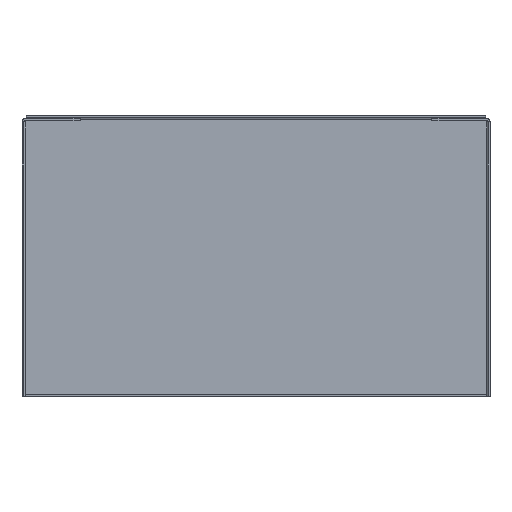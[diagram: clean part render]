
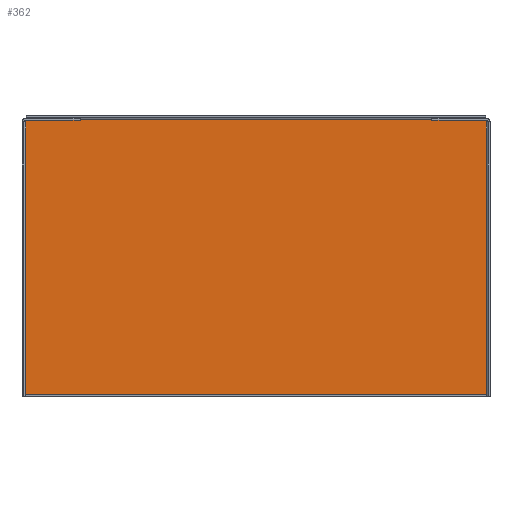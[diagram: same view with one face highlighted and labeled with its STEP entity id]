
A CAD part, front view. The second image highlights one B-rep face of the part: STEP entity #362.
In plain terms, the highlighted planar face has unit normal (0, -1, 0).
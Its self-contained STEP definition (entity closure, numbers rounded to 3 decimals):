
#46 = LINE ( 'NONE', #1877, #210 ) ;
#51 = DIRECTION ( 'NONE',  ( -1., 0., 0. ) ) ;
#62 = CARTESIAN_POINT ( 'NONE',  ( 0., 49., 0. ) ) ;
#72 = CARTESIAN_POINT ( 'NONE',  ( -123., 49., -75. ) ) ;
#146 = ORIENTED_EDGE ( 'NONE', *, *, #766, .T. ) ;
#151 = EDGE_CURVE ( 'NONE', #1208, #1920, #1371, .T. ) ;
#200 = VECTOR ( 'NONE', #1946, 1000. ) ;
#210 = VECTOR ( 'NONE', #650, 1000. ) ;
#259 = CARTESIAN_POINT ( 'NONE',  ( 122.75, 49., 72.75 ) ) ;
#261 = EDGE_CURVE ( 'NONE', #1221, #1624, #1846, .T. ) ;
#279 = DIRECTION ( 'NONE',  ( 0., 0., -1. ) ) ;
#299 = VERTEX_POINT ( 'NONE', #1095 ) ;
#303 = VECTOR ( 'NONE', #279, 1000. ) ;
#313 = EDGE_CURVE ( 'NONE', #1343, #389, #46, .T. ) ;
#320 = ORIENTED_EDGE ( 'NONE', *, *, #1840, .T. ) ;
#329 = ORIENTED_EDGE ( 'NONE', *, *, #313, .F. ) ;
#339 = EDGE_CURVE ( 'NONE', #1585, #299, #780, .T. ) ;
#340 = CARTESIAN_POINT ( 'NONE',  ( 122.75, 49., 73. ) ) ;
#353 = CARTESIAN_POINT ( 'NONE',  ( 0., 49., 72.75 ) ) ;
#362 = ADVANCED_FACE ( 'NONE', ( #1680 ), #810, .F. ) ;
#368 = CARTESIAN_POINT ( 'NONE',  ( 123., 49., 0. ) ) ;
#389 = VERTEX_POINT ( 'NONE', #340 ) ;
#397 = AXIS2_PLACEMENT_3D ( 'NONE', #62, #1566, #1255 ) ;
#430 = LINE ( 'NONE', #1026, #303 ) ;
#437 = DIRECTION ( 'NONE',  ( 0., 0., -1. ) ) ;
#460 = VECTOR ( 'NONE', #1842, 1000. ) ;
#489 = VECTOR ( 'NONE', #498, 1000. ) ;
#498 = DIRECTION ( 'NONE',  ( 0., 0., 1. ) ) ;
#521 = DIRECTION ( 'NONE',  ( -1., 0., 0. ) ) ;
#572 = LINE ( 'NONE', #1314, #200 ) ;
#650 = DIRECTION ( 'NONE',  ( 1., 0., 0. ) ) ;
#662 = ORIENTED_EDGE ( 'NONE', *, *, #1462, .F. ) ;
#681 = CARTESIAN_POINT ( 'NONE',  ( -123., 49., 71.586 ) ) ;
#708 = CARTESIAN_POINT ( 'NONE',  ( 123., 49., 0. ) ) ;
#727 = EDGE_CURVE ( 'NONE', #1343, #849, #430, .T. ) ;
#731 = ORIENTED_EDGE ( 'NONE', *, *, #727, .T. ) ;
#766 = EDGE_CURVE ( 'NONE', #1585, #872, #1697, .T. ) ;
#780 = LINE ( 'NONE', #368, #460 ) ;
#810 = PLANE ( 'NONE',  #397 ) ;
#824 = VECTOR ( 'NONE', #1234, 1000. ) ;
#849 = VERTEX_POINT ( 'NONE', #1542 ) ;
#858 = LINE ( 'NONE', #1582, #953 ) ;
#872 = VERTEX_POINT ( 'NONE', #259 ) ;
#900 = ORIENTED_EDGE ( 'NONE', *, *, #1616, .F. ) ;
#939 = CARTESIAN_POINT ( 'NONE',  ( 0., 49., -75. ) ) ;
#952 = ORIENTED_EDGE ( 'NONE', *, *, #339, .F. ) ;
#953 = VECTOR ( 'NONE', #1163, 1000. ) ;
#975 = CARTESIAN_POINT ( 'NONE',  ( -123., 49., 0. ) ) ;
#1026 = CARTESIAN_POINT ( 'NONE',  ( -122.75, 49., 0. ) ) ;
#1030 = EDGE_LOOP ( 'NONE', ( #1465, #662, #952, #146, #1885, #329, #731, #320, #1469, #900 ) ) ;
#1095 = CARTESIAN_POINT ( 'NONE',  ( 123., 49., 71.586 ) ) ;
#1163 = DIRECTION ( 'NONE',  ( 0., 0., 1. ) ) ;
#1208 = VERTEX_POINT ( 'NONE', #1836 ) ;
#1221 = VERTEX_POINT ( 'NONE', #681 ) ;
#1234 = DIRECTION ( 'NONE',  ( -1., 0., 0. ) ) ;
#1255 = DIRECTION ( 'NONE',  ( 0., 0., 1. ) ) ;
#1314 = CARTESIAN_POINT ( 'NONE',  ( 122.75, 49., 0. ) ) ;
#1343 = VERTEX_POINT ( 'NONE', #1956 ) ;
#1365 = EDGE_CURVE ( 'NONE', #872, #389, #572, .T. ) ;
#1371 = LINE ( 'NONE', #939, #1458 ) ;
#1458 = VECTOR ( 'NONE', #51, 1000. ) ;
#1462 = EDGE_CURVE ( 'NONE', #299, #1208, #1785, .T. ) ;
#1465 = ORIENTED_EDGE ( 'NONE', *, *, #151, .F. ) ;
#1469 = ORIENTED_EDGE ( 'NONE', *, *, #261, .F. ) ;
#1532 = LINE ( 'NONE', #1870, #824 ) ;
#1542 = CARTESIAN_POINT ( 'NONE',  ( -122.75, 49., 72.75 ) ) ;
#1566 = DIRECTION ( 'NONE',  ( 0., 1., 0. ) ) ;
#1582 = CARTESIAN_POINT ( 'NONE',  ( -123., 49., 0. ) ) ;
#1585 = VERTEX_POINT ( 'NONE', #1892 ) ;
#1616 = EDGE_CURVE ( 'NONE', #1920, #1221, #858, .T. ) ;
#1624 = VERTEX_POINT ( 'NONE', #1911 ) ;
#1680 = FACE_OUTER_BOUND ( 'NONE', #1030, .T. ) ;
#1697 = LINE ( 'NONE', #353, #1744 ) ;
#1744 = VECTOR ( 'NONE', #521, 1000. ) ;
#1785 = LINE ( 'NONE', #708, #1927 ) ;
#1836 = CARTESIAN_POINT ( 'NONE',  ( 123., 49., -75. ) ) ;
#1840 = EDGE_CURVE ( 'NONE', #849, #1624, #1532, .T. ) ;
#1842 = DIRECTION ( 'NONE',  ( 0., 0., -1. ) ) ;
#1846 = LINE ( 'NONE', #975, #489 ) ;
#1870 = CARTESIAN_POINT ( 'NONE',  ( 0., 49., 72.75 ) ) ;
#1877 = CARTESIAN_POINT ( 'NONE',  ( 0., 49., 73. ) ) ;
#1885 = ORIENTED_EDGE ( 'NONE', *, *, #1365, .T. ) ;
#1892 = CARTESIAN_POINT ( 'NONE',  ( 123., 49., 72.75 ) ) ;
#1911 = CARTESIAN_POINT ( 'NONE',  ( -123., 49., 72.75 ) ) ;
#1920 = VERTEX_POINT ( 'NONE', #72 ) ;
#1927 = VECTOR ( 'NONE', #437, 1000. ) ;
#1946 = DIRECTION ( 'NONE',  ( 0., 0., 1. ) ) ;
#1956 = CARTESIAN_POINT ( 'NONE',  ( -122.75, 49., 73. ) ) ;
